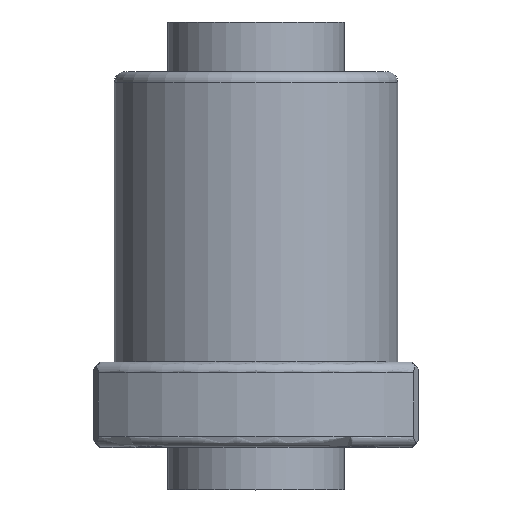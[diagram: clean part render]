
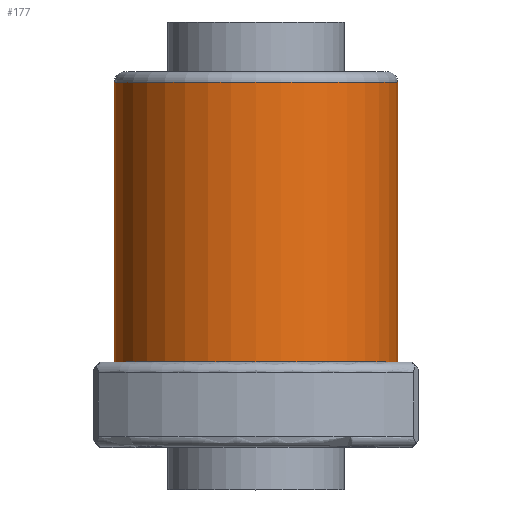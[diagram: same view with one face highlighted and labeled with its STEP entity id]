
A CAD part, top view. The second image highlights one B-rep face of the part: STEP entity #177.
In plain terms, the highlighted cylindrical face has radius 20 mm (diameter 40 mm), a full revolution.
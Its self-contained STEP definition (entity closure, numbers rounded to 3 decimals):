
#177=ADVANCED_FACE('',(#250,#251),#223,.T.);
#223=CYLINDRICAL_SURFACE('',#836,20.);
#250=FACE_BOUND('',#324,.T.);
#251=FACE_BOUND('',#325,.T.);
#324=EDGE_LOOP('',(#432));
#325=EDGE_LOOP('',(#433));
#432=ORIENTED_EDGE('',*,*,#689,.T.);
#433=ORIENTED_EDGE('',*,*,#674,.T.);
#601=VERTEX_POINT('',#1177);
#616=VERTEX_POINT('',#1211);
#674=EDGE_CURVE('',#601,#601,#765,.T.);
#689=EDGE_CURVE('',#616,#616,#774,.T.);
#765=CIRCLE('',#822,20.);
#774=CIRCLE('',#835,20.);
#822=AXIS2_PLACEMENT_3D('',#1176,#956,#957);
#835=AXIS2_PLACEMENT_3D('',#1210,#988,#989);
#836=AXIS2_PLACEMENT_3D('',#1212,#990,#991);
#956=DIRECTION('',(0.,1.,0.));
#957=DIRECTION('',(0.,0.,-1.));
#988=DIRECTION('',(0.,-1.,0.));
#989=DIRECTION('',(0.,0.,-1.));
#990=DIRECTION('',(0.,1.,0.));
#991=DIRECTION('',(0.,0.,1.));
#1176=CARTESIAN_POINT('',(0.,12.,0.));
#1177=CARTESIAN_POINT('',(0.,12.,-20.));
#1210=CARTESIAN_POINT('',(0.,51.5,0.));
#1211=CARTESIAN_POINT('',(0.,51.5,-20.));
#1212=CARTESIAN_POINT('',(0.,0.,0.));
